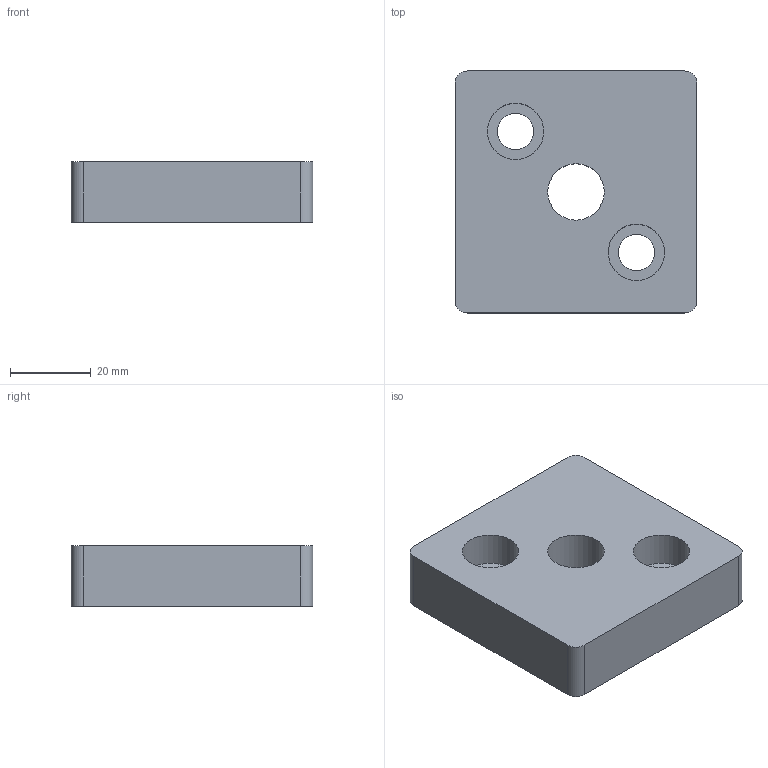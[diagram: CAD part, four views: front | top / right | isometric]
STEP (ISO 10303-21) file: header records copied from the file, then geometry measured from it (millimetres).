
FILE_DESCRIPTION (( 'STEP AP214' ), '1' );
FILE_NAME ('SL02002.step', '2024-12-03T16:30:50', ( '' ), ( '' ), 'SwSTEP 2.0', 'SolidWorks 2023', '' );
FILE_SCHEMA (( 'AUTOMOTIVE_DESIGN' ));
Length unit declared in the file: millimetre
Products named in the file (1): SL02002
Bounding box: 60 x 60 x 15 mm (x, y, z)
Volume: 48113 mm3; surface area: 11923.1 mm2
Topology: 1 solids, 1 shells, 17 faces, 40 edges, 27 vertices
Faces by surface type: cylinder 9, plane 8
Full cylindrical faces by diameter (mm): 9 x2, 14 x3
Entity records: 501 total; most frequent: DIRECTION 88, CARTESIAN_POINT 78, ORIENTED_EDGE 68, AXIS2_PLACEMENT_3D 36, EDGE_CURVE 34, EDGE_LOOP 30, VERTEX_POINT 26, FACE_OUTER_BOUND 22
